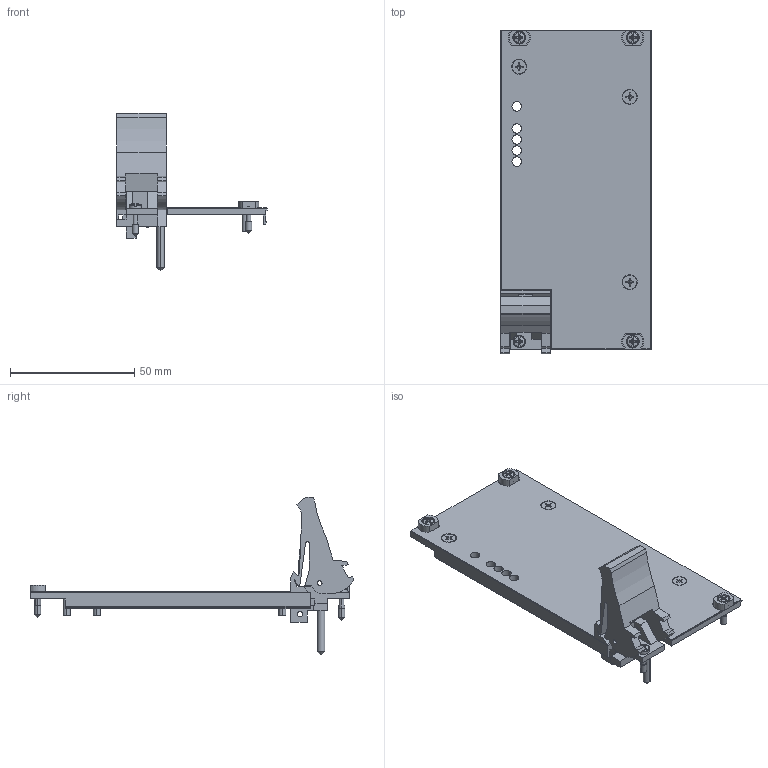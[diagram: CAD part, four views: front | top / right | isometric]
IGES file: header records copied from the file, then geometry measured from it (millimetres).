
Start section:  PTC IGES file: cu_ni-8260.igs
Global section: file name: cu_ni-8260.igs; native system: Pro/ENGINEER by Parametric Technology Corporation; preprocessor: 2011490; author: jjorden; organization: Unknown; date: 20131105.122504; units: inch
Bounding box: 60.64 x 130.36 x 63.53 mm (x, y, z)
Surface area: 24846.3 mm2 (no closed solid volume)
Topology: 0 solids, 0 shells, 510 faces, 2602 edges, 2532 vertices
Faces by surface type: bspline 347, revolution 163
